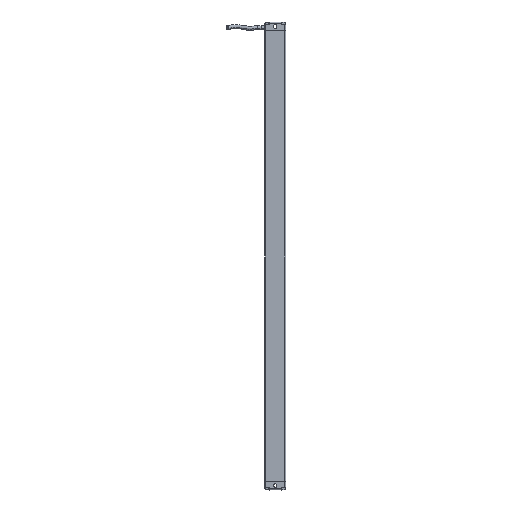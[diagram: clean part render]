
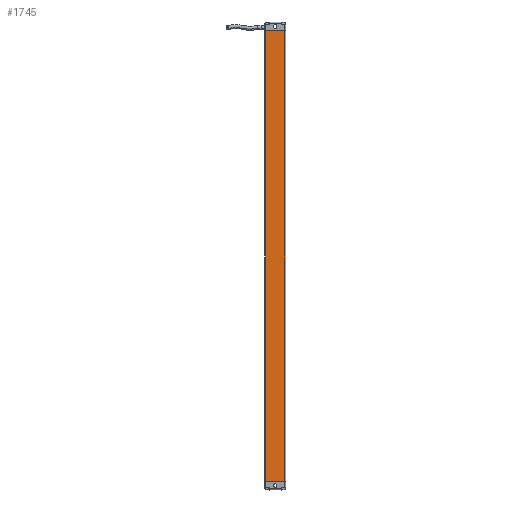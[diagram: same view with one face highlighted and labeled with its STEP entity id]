
A CAD part, front view. The second image highlights one B-rep face of the part: STEP entity #1745.
In plain terms, the highlighted planar face has unit normal (-0.001, -1, 0).
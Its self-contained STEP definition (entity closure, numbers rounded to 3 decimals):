
#1745=ADVANCED_FACE('',(#2832),#2219,.T.);
#2219=PLANE('',#15360);
#2832=FACE_OUTER_BOUND('',#3624,.T.);
#3624=EDGE_LOOP('',(#7302,#7303,#7304,#7305));
#7302=ORIENTED_EDGE('',*,*,#11460,.T.);
#7303=ORIENTED_EDGE('',*,*,#11461,.T.);
#7304=ORIENTED_EDGE('',*,*,#11462,.T.);
#7305=ORIENTED_EDGE('',*,*,#11377,.F.);
#9474=VERTEX_POINT('',#25144);
#9475=VERTEX_POINT('',#25146);
#9549=VERTEX_POINT('',#25310);
#9550=VERTEX_POINT('',#25314);
#11377=EDGE_CURVE('',#9474,#9475,#12862,.T.);
#11460=EDGE_CURVE('',#9474,#9549,#12919,.T.);
#11461=EDGE_CURVE('',#9549,#9550,#12920,.T.);
#11462=EDGE_CURVE('',#9550,#9475,#12921,.T.);
#12862=LINE('',#25145,#14077);
#12919=LINE('',#25311,#14134);
#12920=LINE('',#25313,#14135);
#12921=LINE('',#25315,#14136);
#14077=VECTOR('',#18297,1.);
#14134=VECTOR('',#18422,1.);
#14135=VECTOR('',#18425,1.);
#14136=VECTOR('',#18426,1.);
#15360=AXIS2_PLACEMENT_3D('',#25316,#18427,#18428);
#18297=DIRECTION('',(1.,-0.001,0.));
#18422=DIRECTION('',(0.,0.,-1.));
#18425=DIRECTION('',(1.,-0.001,0.));
#18426=DIRECTION('',(0.,0.,1.));
#18427=DIRECTION('',(-0.001,-1.,0.));
#18428=DIRECTION('',(1.,-0.001,0.));
#25144=CARTESIAN_POINT('',(53.048,-142.376,700.376));
#25145=CARTESIAN_POINT('',(79.028,-142.395,700.376));
#25146=CARTESIAN_POINT('',(79.028,-142.395,700.376));
#25310=CARTESIAN_POINT('',(53.048,-142.376,98.376));
#25311=CARTESIAN_POINT('',(53.048,-142.376,543.376));
#25313=CARTESIAN_POINT('',(79.028,-142.395,98.376));
#25314=CARTESIAN_POINT('',(79.028,-142.395,98.376));
#25315=CARTESIAN_POINT('',(79.028,-142.395,198.376));
#25316=CARTESIAN_POINT('',(79.028,-142.395,543.376));
